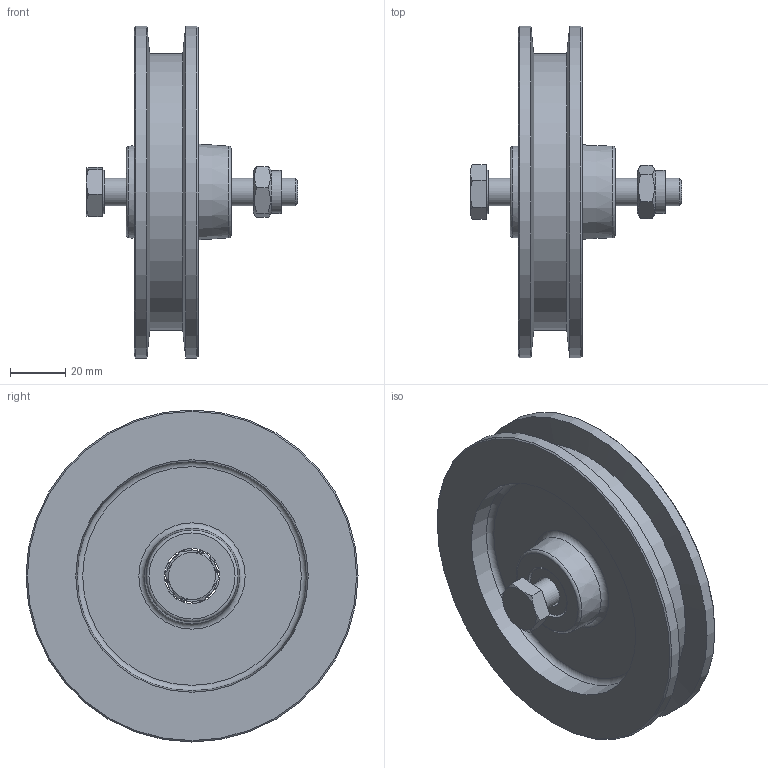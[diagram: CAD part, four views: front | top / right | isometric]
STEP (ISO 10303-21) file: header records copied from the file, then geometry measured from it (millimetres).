
FILE_DESCRIPTION(/* description */ ('Schiebetorrolle lose Ø120'),/* implementation_level */ '2;1');
FILE_NAME(/* name */ 'C:\Temp\AG_VJobSTP\010330455.iam.stp',/* time_stamp */ '2022-09-02T09:52:09+02:00',/* author */ ('O. Loukota'),/* organization */ (''),/* preprocessor_version */ 'ST-DEVELOPER v18.1',/* originating_system */ 'Autodesk Inventor 2021',/* authorisation */ '');
FILE_SCHEMA (('AUTOMOTIVE_DESIGN { 1 0 10303 214 3 1 1 }'));
Length unit declared in the file: millimetre
Products named in the file (8): 010330455; 337000108; DIN EN ISO 7040 - M10; DIN 931-1 - M10 x 70; 010330455_01; 337000297; 337000298; 337000299
Assembly tree (12 placements, depth 3):
  010330455
    337000108
    DIN EN ISO 7040 - M10
    DIN 931-1 - M10 x 70
    010330455_01
      337000297
      337000298
      337000299  x6
Bounding box: 76.4 x 120 x 120 mm (x, y, z)
Volume: 150858.2 mm3; surface area: 56916.2 mm2
Topology: 11 solids, 11 shells, 185 faces, 414 edges, 267 vertices
Faces by surface type: plane 80, cylinder 44, cone 31, bspline 24, torus 6
Full cylindrical faces by diameter (mm): 2 x12, 5 x6, 8.376 x1, 10 x1, 11.5 x2, 15.6 x2, 18.5 x2, 20 x1, 100 x1, 120 x2
Entity records: 5401 total; most frequent: CARTESIAN_POINT 1206, DIRECTION 814, ORIENTED_EDGE 798, EDGE_CURVE 399, AXIS2_PLACEMENT_3D 321, VERTEX_POINT 257, EDGE_LOOP 206, LINE 172
